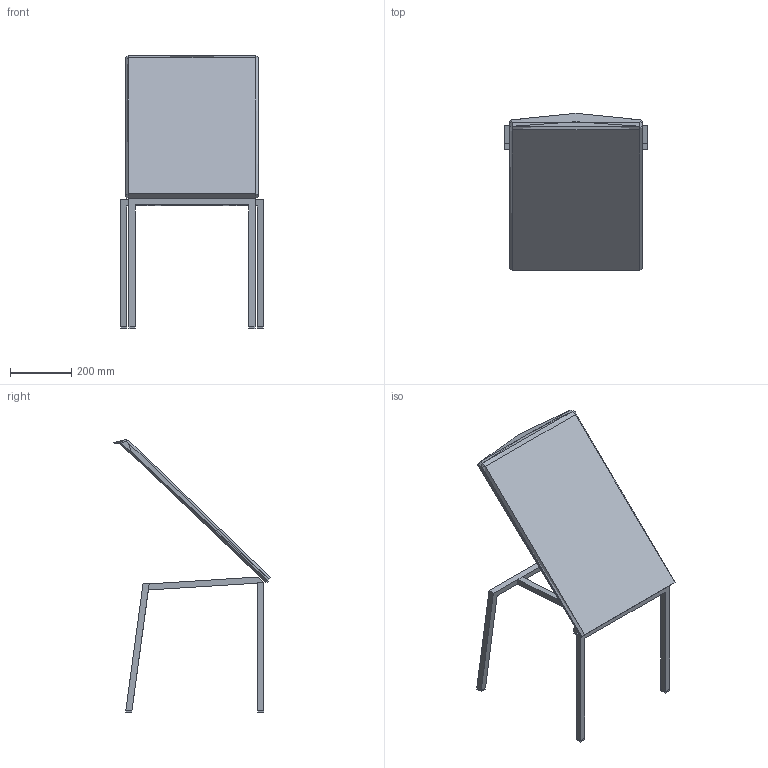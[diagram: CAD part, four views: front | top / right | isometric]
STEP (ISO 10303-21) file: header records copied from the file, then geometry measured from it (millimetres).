
FILE_DESCRIPTION(/* description */ (''),/* implementation_level */ '2;1');
FILE_NAME(/* name */ 'TWIST2~1',/* time_stamp */ '2016-07-06T10:58:01+02:00',/* author */ (''),/* organization */ (''),/* preprocessor_version */ 'ST-DEVELOPER v15',/* originating_system */ '',/* authorisation */ '');
FILE_SCHEMA (('CONFIG_CONTROL_DESIGN'));
Length unit declared in the file: millimetre
Products named in the file (1): Document
Bounding box: 465 x 511.29 x 888.79 mm (x, y, z)
Volume: 12348549.7 mm3; surface area: 1062959 mm2
Topology: 1 solids, 6 shells, 70 faces, 183 edges, 116 vertices
Faces by surface type: plane 44, bspline 26
Entity records: 5447 total; most frequent: CARTESIAN_POINT 4208, ORIENTED_EDGE 328, EDGE_CURVE 180, B_SPLINE_CURVE_WITH_KNOTS 150, VERTEX_POINT 112, ADVANCED_FACE 70, FACE_OUTER_BOUND 70, EDGE_LOOP 70
